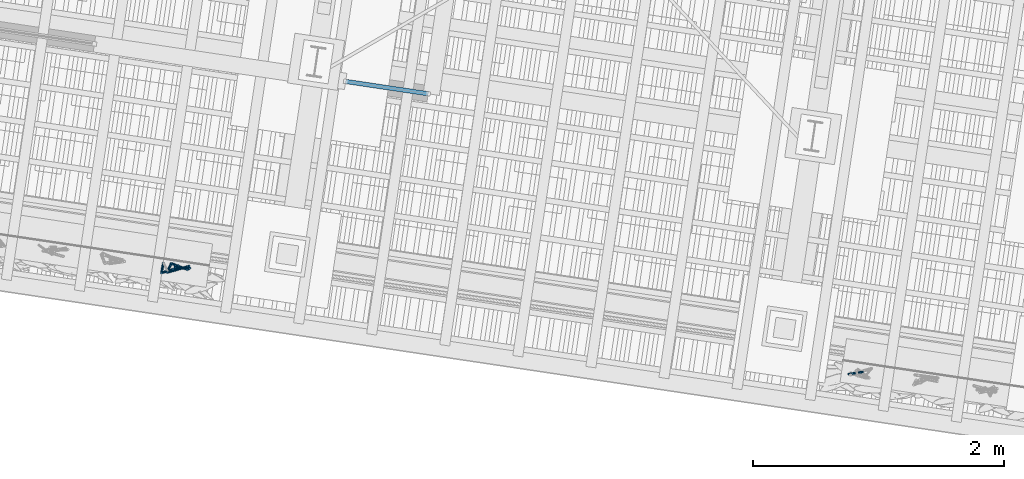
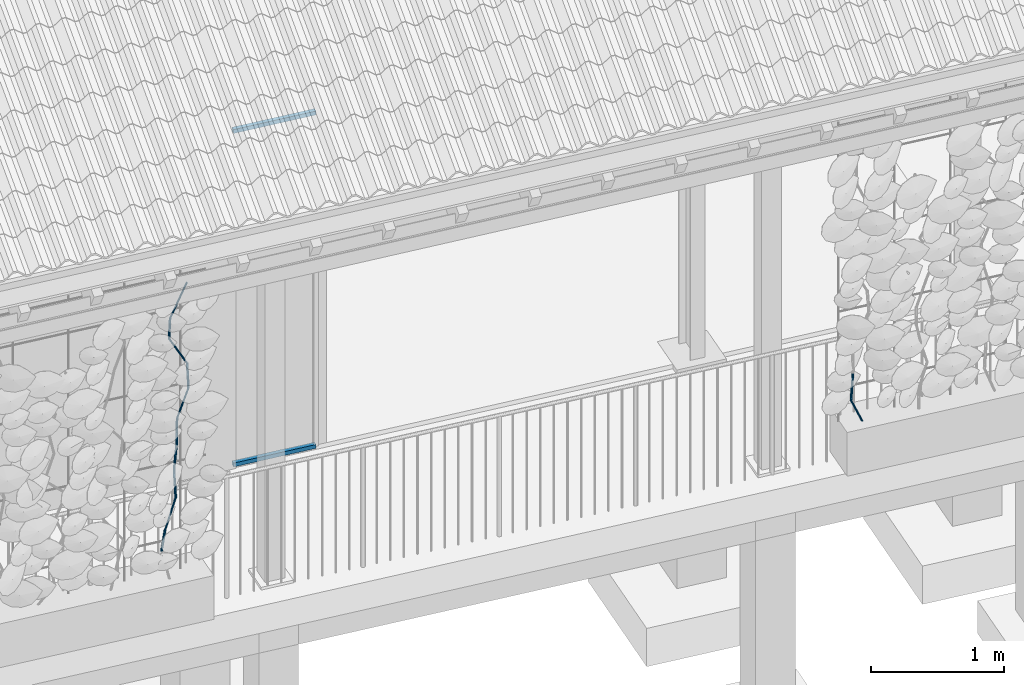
# One storey, part 118 of 131: 14 members, 1 element without a shape of its own.
"""IFC4 building model written with IfcOpenShell, lengths in metres."""

from ifc_helpers import new_model, si_unit, direction, frame, origin_with_axes, place, context, subcontext, project, spatial, rectangle, circle, extrude, material, material_profile, profile_set, profile_usage, type_object, element, aggregate, save


model = new_model("IFC4")

# Units and contexts
model_context = context("Model", 3, precision=1e-05, world=origin_with_axes(), true_north=direction((0.0, 1.0)))
body_context = subcontext(model_context, "Body", "Model", "MODEL_VIEW")
ifc_project = project(units=[si_unit("VOLUMEUNIT", "CUBIC_METRE"), si_unit("LENGTHUNIT", "METRE"), si_unit("AREAUNIT", "SQUARE_METRE")], contexts=[model_context])

# Site, building, storey
site_placement = place(None, origin_with_axes())
site = spatial("IfcSite", under=ifc_project, at=site_placement, Name="Lares · Rua das Mercês · artigo 4771")
building_placement = place(site_placement, frame((15.0, 9.7, 15.8), z_axis=(0.0, 0.0, 1.0), x_axis=(0.989015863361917, -0.147809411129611, 0.0)))
building = spatial("IfcBuilding", under=site, at=building_placement, Name="Casa Sobreposta")
storey_placement = place(building_placement, origin_with_axes())
storey = spatial("IfcBuildingStorey", under=building, at=storey_placement, Name="00 · Habitação e estacionamento", Elevation=15.8)

# Members
ifc_material_1 = material(Name="Aço pintado / Stahl lackiert", Category="steel")
ifc_material_profile_1 = material_profile(ifc_material_1, rectangle(XDim=0.035, YDim=0.035))
ifc_profile_set_1 = profile_set([ifc_material_profile_1], Name="R0.035")
ifc_profile_usage_1 = profile_usage(ifc_profile_set_1)
member_type_1 = type_object("IfcMemberType", Name="R0.035 / steel", PredefinedType="NOTDEFINED", material=ifc_profile_set_1)
member_1_placement = place(storey_placement, frame((24.256, 0.0, 0.0), z_axis=(1.0, 0.0, 0.0), x_axis=(0.0, -1.0, 0.0)))
element("IfcMember", 1, at=member_1_placement, inside=storey, type_object=member_type_1, material=ifc_profile_usage_1, Name="Folha de correr sul 12 · travessa", context=body_context, shape_type="SweptSolid", body=[
    extrude(rectangle(XDim=0.035, YDim=0.035), origin_with_axes(), (0.0, 0.0, 1.0), 0.664000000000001),
])
ifc_profile_usage_2 = profile_usage(ifc_profile_set_1)
member_2_placement = place(storey_placement, frame((24.256, 0.0, 3.05), z_axis=(1.0, 0.0, 0.0), x_axis=(0.0, -1.0, 0.0)))
element("IfcMember", 2, at=member_2_placement, inside=storey, type_object=member_type_1, material=ifc_profile_usage_2, Name="Folha de correr sul 12 · travessa", context=body_context, shape_type="SweptSolid", body=[
    extrude(rectangle(XDim=0.035, YDim=0.035), origin_with_axes(), (0.0, 0.0, 1.0), 0.664000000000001),
])

# Assembly, members
assembly_placement = place(storey_placement, origin_with_axes())
assembly = element("IfcElementAssembly", 3, at=assembly_placement, inside=storey, Name="Fachada sul e pátio · estrutura e trepadeiras", ObjectType="LIVING_SHADE_TRELLIS", PredefinedType="USERDEFINED")
ifc_material_2 = material(Name="Ramos de trepadeiras", Category="wood")
ifc_material_profile_2 = material_profile(ifc_material_2, circle(Radius=0.0075))
ifc_profile_set_2 = profile_set([ifc_material_profile_2], Name="D0.015")
ifc_profile_usage_3 = profile_usage(ifc_profile_set_2)
member_type_2 = type_object("IfcMemberType", Name="D0.015 / vine_wood", PredefinedType="NOTDEFINED", material=ifc_profile_set_2)
member_3_placement = place(assembly_placement, frame((23.0345548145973, -1.64407805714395, 0.589963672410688), z_axis=(-0.0113902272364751, -0.310696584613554, 0.950440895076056), x_axis=(-0.99932868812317, 0.0366356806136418, 0.0)))
member_3 = element("IfcMember", 4, at=member_3_placement, type_object=member_type_2, material=ifc_profile_usage_3, Name="Trepadeiras · ramo", context=body_context, shape_type="SweptSolid", body=[
    extrude(circle(Radius=0.0075), origin_with_axes(), (0.0, 0.0, 1.0), 0.252476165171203),
])
ifc_profile_usage_4 = profile_usage(ifc_profile_set_2)
member_4_placement = place(assembly_placement, frame((23.0316790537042, -1.72252153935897, 0.829927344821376), z_axis=(0.395049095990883, 0.184528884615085, 0.899936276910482), x_axis=(0.423210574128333, -0.906031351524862, 0.0)))
member_4 = element("IfcMember", 5, at=member_4_placement, type_object=member_type_2, material=ifc_profile_usage_4, Name="Trepadeiras · ramo", context=body_context, shape_type="SweptSolid", body=[
    extrude(circle(Radius=0.0075), origin_with_axes(), (0.0, 0.0, 1.0), 0.266645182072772),
])
ifc_profile_usage_5 = profile_usage(ifc_profile_set_2)
member_5_placement = place(assembly_placement, frame((23.1370169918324, -1.6733178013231, 1.06989101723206), z_axis=(-0.0227986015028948, 0.0880694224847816, 0.995853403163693), x_axis=(0.968088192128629, 0.250609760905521, 0.0)))
member_5 = element("IfcMember", 6, at=member_5_placement, type_object=member_type_2, material=ifc_profile_usage_5, Name="Trepadeiras · ramo", context=body_context, shape_type="SweptSolid", body=[
    extrude(circle(Radius=0.0075), origin_with_axes(), (0.0, 0.0, 1.0), 0.240962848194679),
])
ifc_profile_usage_6 = profile_usage(ifc_profile_set_2)
member_6_placement = place(assembly_placement, frame((23.1315233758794, -1.6520963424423, 1.30985468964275), z_axis=(0.0992382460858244, 0.0185059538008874, 0.994891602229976), x_axis=(0.183319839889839, -0.983053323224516, 0.0)))
member_6 = element("IfcMember", 7, at=member_6_placement, type_object=member_type_2, material=ifc_profile_usage_6, Name="Trepadeiras · ramo", context=body_context, shape_type="SweptSolid", body=[
    extrude(circle(Radius=0.0075), origin_with_axes(), (0.0, 0.0, 1.0), 0.241195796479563),
])
ifc_profile_usage_7 = profile_usage(ifc_profile_set_2)
member_7_placement = place(assembly_placement, frame((23.1554592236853, -1.64763278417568, 1.54981836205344), z_axis=(-0.028342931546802, -0.0953151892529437, 0.995043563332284), x_axis=(-0.958519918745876, 0.28502555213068, 0.0)))
member_7 = element("IfcMember", 8, at=member_7_placement, type_object=member_type_2, material=ifc_profile_usage_7, Name="Trepadeiras · ramo", context=body_context, shape_type="SweptSolid", body=[
    extrude(circle(Radius=0.0075), origin_with_axes(), (0.0, 0.0, 1.0), 0.241158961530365),
])
ifc_profile_usage_8 = profile_usage(ifc_profile_set_2)
member_8_placement = place(assembly_placement, frame((23.1486240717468, -1.67061889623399, 1.78978203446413), z_axis=(0.381961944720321, 0.0718600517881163, 0.92138005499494), x_axis=(0.184890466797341, -0.982759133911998, 0.0)))
member_8 = element("IfcMember", 9, at=member_8_placement, type_object=member_type_2, material=ifc_profile_usage_8, Name="Trepadeiras · ramo", context=body_context, shape_type="SweptSolid", body=[
    extrude(circle(Radius=0.0075), origin_with_axes(), (0.0, 0.0, 1.0), 0.260439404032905),
])
ifc_profile_usage_9 = profile_usage(ifc_profile_set_2)
member_9_placement = place(assembly_placement, frame((23.248102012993, -1.65190370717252, 2.02974570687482), z_axis=(-0.0703236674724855, -0.0624431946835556, 0.995567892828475), x_axis=(-0.663967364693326, 0.74776155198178, 0.0)))
member_9 = element("IfcMember", 10, at=member_9_placement, type_object=member_type_2, material=ifc_profile_usage_9, Name="Trepadeiras · ramo", context=body_context, shape_type="SweptSolid", body=[
    extrude(circle(Radius=0.0075), origin_with_axes(), (0.0, 0.0, 1.0), 0.241031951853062),
])
ifc_profile_usage_10 = profile_usage(ifc_profile_set_2)
member_10_placement = place(assembly_placement, frame((23.2311517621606, -1.66695451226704, 2.2697093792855), z_axis=(-0.484541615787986, 0.107113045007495, 0.868185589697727), x_axis=(0.215849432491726, 0.976426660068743, 0.0)))
member_10 = element("IfcMember", 11, at=member_10_placement, type_object=member_type_2, material=ifc_profile_usage_10, Name="Trepadeiras · ramo", context=body_context, shape_type="SweptSolid", body=[
    extrude(circle(Radius=0.0075), origin_with_axes(), (0.0, 0.0, 1.0), 0.27639674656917),
])
ifc_profile_usage_11 = profile_usage(ifc_profile_set_2)
member_11_placement = place(assembly_placement, frame((23.0972260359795, -1.63734881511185, 2.50967305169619), z_axis=(-0.0844863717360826, -0.300328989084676, 0.950086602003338), x_axis=(-0.96263519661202, 0.270801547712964, 0.0)))
member_11 = element("IfcMember", 12, at=member_11_placement, type_object=member_type_2, material=ifc_profile_usage_11, Name="Trepadeiras · ramo", context=body_context, shape_type="SweptSolid", body=[
    extrude(circle(Radius=0.0075), origin_with_axes(), (0.0, 0.0, 1.0), 0.252570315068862),
])
ifc_profile_usage_12 = profile_usage(ifc_profile_set_2)
member_12_placement = place(assembly_placement, frame((23.0758872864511, -1.71320300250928, 2.74963672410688), z_axis=(0.549972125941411, 0.25083623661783, 0.796625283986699), x_axis=(0.414966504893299, -0.909836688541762, 0.0)))
member_12 = element("IfcMember", 13, at=member_12_placement, type_object=member_type_2, material=ifc_profile_usage_12, Name="Trepadeiras · ramo", context=body_context, shape_type="SweptSolid", body=[
    extrude(circle(Radius=0.0075), origin_with_axes(), (0.0, 0.0, 1.0), 0.301225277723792),
])
ifc_profile_usage_13 = profile_usage(ifc_profile_set_2)
member_13_placement = place(assembly_placement, frame((28.6654728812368, -1.6786196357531, 0.35), z_axis=(-0.396851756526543, -0.12315337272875, 0.909583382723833), x_axis=(-0.2963827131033, 0.95506925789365, -1.51893547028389e-17)))
member_13 = element("IfcMember", 14, at=member_13_placement, type_object=member_type_2, material=ifc_profile_usage_13, Name="Trepadeiras · ramo", context=body_context, shape_type="SweptSolid", body=[
    extrude(circle(Radius=0.0075), origin_with_axes(), (0.0, 0.0, 1.0), 0.265459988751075),
])
ifc_profile_usage_14 = profile_usage(ifc_profile_set_2)
member_14_placement = place(assembly_placement, frame((28.5601246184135, -1.71131192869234, 0.591457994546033), z_axis=(0.0614256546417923, -0.00943117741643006, 0.998067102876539), x_axis=(-0.1517597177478, -0.988417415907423, 0.0)))
member_14 = element("IfcMember", 15, at=member_14_placement, type_object=member_type_2, material=ifc_profile_usage_14, Name="Trepadeiras · ramo", context=body_context, shape_type="SweptSolid", body=[
    extrude(circle(Radius=0.0075), origin_with_axes(), (0.0, 0.0, 1.0), 0.241925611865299),
])
aggregate(assembly, [member_3, member_4, member_5, member_6, member_7, member_8, member_9, member_10, member_11, member_12, member_13, member_14])

save(model, "model.ifc")
